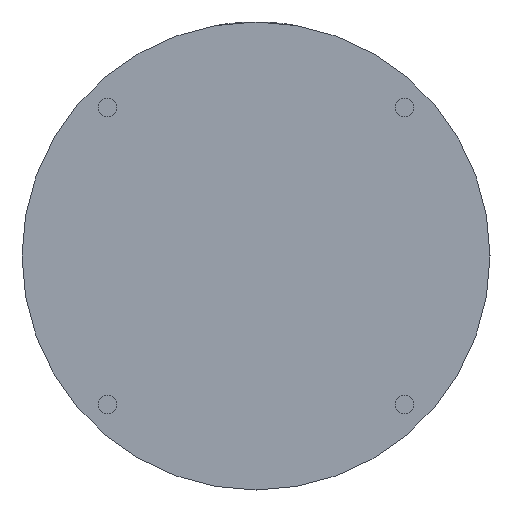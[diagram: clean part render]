
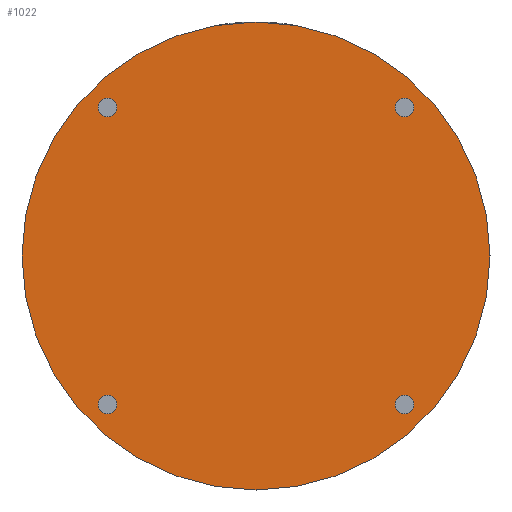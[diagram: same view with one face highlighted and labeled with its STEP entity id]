
A CAD part, front view. The second image highlights one B-rep face of the part: STEP entity #1022.
In plain terms, the highlighted planar face has unit normal (0, -1, 0).
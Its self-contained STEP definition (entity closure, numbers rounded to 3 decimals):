
#2 = DIRECTION ( 'NONE',  ( 0., 0., -1. ) ) ;
#11 = ORIENTED_EDGE ( 'NONE', *, *, #912, .T. ) ;
#27 = AXIS2_PLACEMENT_3D ( 'NONE', #449, #1267, #570 ) ;
#45 = DIRECTION ( 'NONE',  ( 0., 0., 1. ) ) ;
#55 = CARTESIAN_POINT ( 'NONE',  ( -71.418, 0., 66.918 ) ) ;
#83 = CARTESIAN_POINT ( 'NONE',  ( 71.418, 0., -66.918 ) ) ;
#88 = AXIS2_PLACEMENT_3D ( 'NONE', #717, #1178, #2 ) ;
#90 = CARTESIAN_POINT ( 'NONE',  ( 71.418, 0., -71.418 ) ) ;
#132 = CIRCLE ( 'NONE', #1273, 4.5 ) ;
#158 = EDGE_LOOP ( 'NONE', ( #602, #1218 ) ) ;
#181 = AXIS2_PLACEMENT_3D ( 'NONE', #640, #736, #976 ) ;
#194 = DIRECTION ( 'NONE',  ( 0., 1., 0. ) ) ;
#213 = DIRECTION ( 'NONE',  ( 0., 0., 1. ) ) ;
#217 = DIRECTION ( 'NONE',  ( 0., 1., 0. ) ) ;
#243 = CARTESIAN_POINT ( 'NONE',  ( 71.418, 0., 75.918 ) ) ;
#250 = EDGE_CURVE ( 'NONE', #773, #390, #723, .T. ) ;
#277 = CARTESIAN_POINT ( 'NONE',  ( -71.418, 0., 75.918 ) ) ;
#281 = ORIENTED_EDGE ( 'NONE', *, *, #1457, .T. ) ;
#283 = DIRECTION ( 'NONE',  ( 0., 1., 0. ) ) ;
#314 = VERTEX_POINT ( 'NONE', #55 ) ;
#339 = VERTEX_POINT ( 'NONE', #277 ) ;
#343 = ORIENTED_EDGE ( 'NONE', *, *, #1305, .F. ) ;
#352 = FACE_BOUND ( 'NONE', #496, .T. ) ;
#390 = VERTEX_POINT ( 'NONE', #817 ) ;
#434 = AXIS2_PLACEMENT_3D ( 'NONE', #457, #1277, #575 ) ;
#449 = CARTESIAN_POINT ( 'NONE',  ( -71.418, 0., 71.418 ) ) ;
#450 = EDGE_CURVE ( 'NONE', #1237, #1058, #743, .T. ) ;
#457 = CARTESIAN_POINT ( 'NONE',  ( -71.418, 0., 71.418 ) ) ;
#458 = AXIS2_PLACEMENT_3D ( 'NONE', #656, #1482, #778 ) ;
#470 = AXIS2_PLACEMENT_3D ( 'NONE', #792, #194, #900 ) ;
#496 = EDGE_LOOP ( 'NONE', ( #672, #11 ) ) ;
#570 = DIRECTION ( 'NONE',  ( 0., 0., 1. ) ) ;
#575 = DIRECTION ( 'NONE',  ( 0., 0., 1. ) ) ;
#596 = PLANE ( 'NONE',  #88 ) ;
#602 = ORIENTED_EDGE ( 'NONE', *, *, #691, .T. ) ;
#619 = ORIENTED_EDGE ( 'NONE', *, *, #779, .T. ) ;
#627 = FACE_BOUND ( 'NONE', #158, .T. ) ;
#633 = ORIENTED_EDGE ( 'NONE', *, *, #250, .F. ) ;
#640 = CARTESIAN_POINT ( 'NONE',  ( 71.418, 0., 71.418 ) ) ;
#656 = CARTESIAN_POINT ( 'NONE',  ( 0., 0., 0. ) ) ;
#672 = ORIENTED_EDGE ( 'NONE', *, *, #1466, .T. ) ;
#682 = CARTESIAN_POINT ( 'NONE',  ( -71.418, 0., -66.918 ) ) ;
#685 = AXIS2_PLACEMENT_3D ( 'NONE', #1442, #847, #960 ) ;
#691 = EDGE_CURVE ( 'NONE', #892, #1452, #1459, .T. ) ;
#717 = CARTESIAN_POINT ( 'NONE',  ( 0., 0., 0. ) ) ;
#723 = CIRCLE ( 'NONE', #685, 112.5 ) ;
#724 = CIRCLE ( 'NONE', #27, 4.5 ) ;
#736 = DIRECTION ( 'NONE',  ( 0., 1., 0. ) ) ;
#743 = CIRCLE ( 'NONE', #181, 4.5 ) ;
#752 = VERTEX_POINT ( 'NONE', #83 ) ;
#757 = DIRECTION ( 'NONE',  ( 0., 1., 0. ) ) ;
#773 = VERTEX_POINT ( 'NONE', #1143 ) ;
#778 = DIRECTION ( 'NONE',  ( 0., 0., 1. ) ) ;
#779 = EDGE_CURVE ( 'NONE', #1058, #1237, #1268, .T. ) ;
#792 = CARTESIAN_POINT ( 'NONE',  ( -71.418, 0., -71.418 ) ) ;
#804 = CIRCLE ( 'NONE', #1322, 4.5 ) ;
#817 = CARTESIAN_POINT ( 'NONE',  ( 0., 0., 112.5 ) ) ;
#847 = DIRECTION ( 'NONE',  ( 0., 1., 0. ) ) ;
#853 = VERTEX_POINT ( 'NONE', #1492 ) ;
#892 = VERTEX_POINT ( 'NONE', #682 ) ;
#900 = DIRECTION ( 'NONE',  ( 0., 0., 1. ) ) ;
#912 = EDGE_CURVE ( 'NONE', #314, #339, #1441, .T. ) ;
#917 = DIRECTION ( 'NONE',  ( 0., 1., 0. ) ) ;
#919 = CARTESIAN_POINT ( 'NONE',  ( 71.418, 0., 71.418 ) ) ;
#938 = FACE_BOUND ( 'NONE', #1095, .T. ) ;
#955 = CIRCLE ( 'NONE', #458, 112.5 ) ;
#960 = DIRECTION ( 'NONE',  ( 0., 0., 1. ) ) ;
#976 = DIRECTION ( 'NONE',  ( 0., 0., 1. ) ) ;
#988 = CARTESIAN_POINT ( 'NONE',  ( 71.418, 0., -71.418 ) ) ;
#1013 = AXIS2_PLACEMENT_3D ( 'NONE', #919, #217, #1035 ) ;
#1022 = ADVANCED_FACE ( 'NONE', ( #1246, #938, #627, #352, #1526 ), #596, .T. ) ;
#1035 = DIRECTION ( 'NONE',  ( 0., 0., 1. ) ) ;
#1058 = VERTEX_POINT ( 'NONE', #243 ) ;
#1073 = ORIENTED_EDGE ( 'NONE', *, *, #450, .T. ) ;
#1095 = EDGE_LOOP ( 'NONE', ( #619, #1073 ) ) ;
#1104 = CARTESIAN_POINT ( 'NONE',  ( 71.418, 0., 66.918 ) ) ;
#1111 = DIRECTION ( 'NONE',  ( 0., 0., 1. ) ) ;
#1143 = CARTESIAN_POINT ( 'NONE',  ( 0., 0., -112.5 ) ) ;
#1178 = DIRECTION ( 'NONE',  ( 0., -1., 0. ) ) ;
#1210 = EDGE_CURVE ( 'NONE', #1452, #892, #132, .T. ) ;
#1218 = ORIENTED_EDGE ( 'NONE', *, *, #1210, .T. ) ;
#1228 = CIRCLE ( 'NONE', #1435, 4.5 ) ;
#1237 = VERTEX_POINT ( 'NONE', #1104 ) ;
#1243 = EDGE_CURVE ( 'NONE', #752, #853, #1228, .T. ) ;
#1246 = FACE_BOUND ( 'NONE', #1281, .T. ) ;
#1267 = DIRECTION ( 'NONE',  ( 0., 1., 0. ) ) ;
#1268 = CIRCLE ( 'NONE', #1013, 4.5 ) ;
#1273 = AXIS2_PLACEMENT_3D ( 'NONE', #1460, #757, #45 ) ;
#1277 = DIRECTION ( 'NONE',  ( 0., 1., 0. ) ) ;
#1281 = EDGE_LOOP ( 'NONE', ( #1481, #281 ) ) ;
#1305 = EDGE_CURVE ( 'NONE', #390, #773, #955, .T. ) ;
#1314 = EDGE_LOOP ( 'NONE', ( #343, #633 ) ) ;
#1322 = AXIS2_PLACEMENT_3D ( 'NONE', #90, #917, #213 ) ;
#1389 = CARTESIAN_POINT ( 'NONE',  ( -71.418, 0., -75.918 ) ) ;
#1435 = AXIS2_PLACEMENT_3D ( 'NONE', #988, #283, #1111 ) ;
#1441 = CIRCLE ( 'NONE', #434, 4.5 ) ;
#1442 = CARTESIAN_POINT ( 'NONE',  ( 0., 0., 0. ) ) ;
#1452 = VERTEX_POINT ( 'NONE', #1389 ) ;
#1457 = EDGE_CURVE ( 'NONE', #853, #752, #804, .T. ) ;
#1459 = CIRCLE ( 'NONE', #470, 4.5 ) ;
#1460 = CARTESIAN_POINT ( 'NONE',  ( -71.418, 0., -71.418 ) ) ;
#1466 = EDGE_CURVE ( 'NONE', #339, #314, #724, .T. ) ;
#1481 = ORIENTED_EDGE ( 'NONE', *, *, #1243, .T. ) ;
#1482 = DIRECTION ( 'NONE',  ( 0., 1., 0. ) ) ;
#1492 = CARTESIAN_POINT ( 'NONE',  ( 71.418, 0., -75.918 ) ) ;
#1526 = FACE_OUTER_BOUND ( 'NONE', #1314, .T. ) ;
